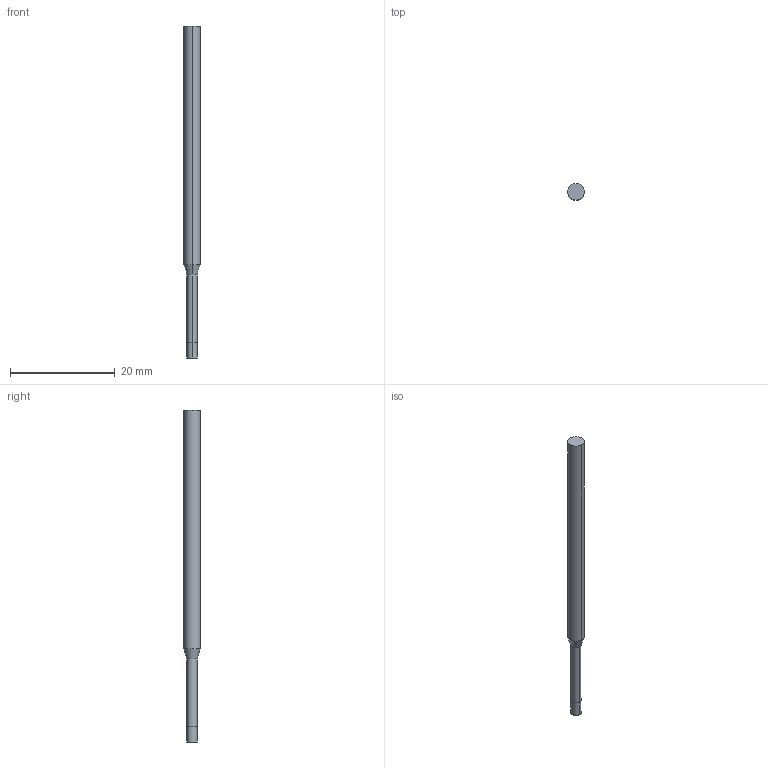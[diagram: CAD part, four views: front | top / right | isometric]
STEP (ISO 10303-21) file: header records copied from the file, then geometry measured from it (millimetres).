
FILE_DESCRIPTION((' '),'2;1');
FILE_NAME( '3MVS0781N8AH.stp', '2026-01-21T19:08:40', (' '), ('--- Datakit www.datakit.com---'), ' Datakit CrossCadWare V2025.4 Sep 19 2025', 'Mastercam 2027', ' ');
FILE_SCHEMA(('AUTOMOTIVE_DESIGN { 1 0 10303 214 1 1 1 1 }'));
Length unit declared in the file: inch
Products named in the file (1): 3MVS0781N8AH
Bounding box: 3.17 x 3.17 x 63.5 mm (x, y, z)
Volume: 421.1 mm3; surface area: 582.1 mm2
Topology: 1 solids, 1 shells, 10 faces, 18 edges, 10 vertices
Faces by surface type: cylinder 6, plane 2, cone 2
Entity records: 323 total; most frequent: DIRECTION 58, CARTESIAN_POINT 43, ORIENTED_EDGE 36, AXIS2_PLACEMENT_3D 25, EDGE_CURVE 18, VERTEX_POINT 10, CIRCLE 10, EDGE_LOOP 10
